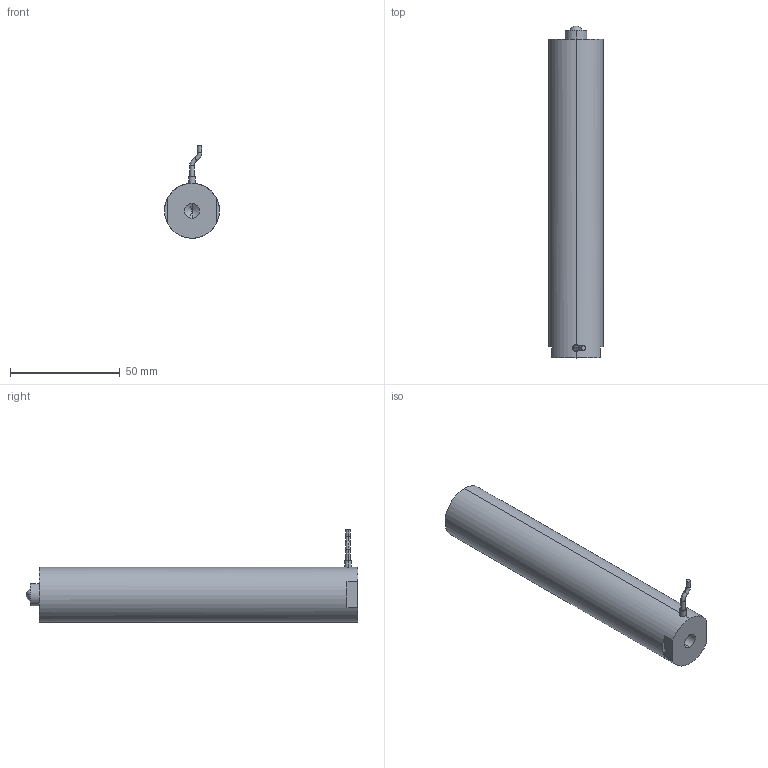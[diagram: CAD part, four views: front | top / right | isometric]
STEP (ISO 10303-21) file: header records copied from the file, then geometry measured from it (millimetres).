
FILE_DESCRIPTION (( 'STEP AP203' ), '1' );
FILE_NAME ('球头式140VS25.STEP', '2021-07-08T07:55:29', ( '微软用户' ), ( '微软公司' ), 'SwSTEP 2.0', 'SolidWorks 2016', '' );
FILE_SCHEMA (( 'CONFIG_CONTROL_DESIGN' ));
Products named in the file (1): ⑩芛宒140VS25
Bounding box: 25 x 151 x 42.06 mm (x, y, z)
Volume: 71054.1 mm3; surface area: 12868.1 mm2
Topology: 1 solids, 1 shells, 947 faces, 2567 edges, 1706 vertices
Faces by surface type: bspline 513, plane 322, cylinder 104, torus 4, sphere 2, cone 2
Entity records: 44452 total; most frequent: CARTESIAN_POINT 25148, ORIENTED_EDGE 5122, EDGE_CURVE 2561, DIRECTION 2016, VERTEX_POINT 1704, B_SPLINE_CURVE_WITH_KNOTS 1701, EDGE_LOOP 1035, ADVANCED_FACE 947
